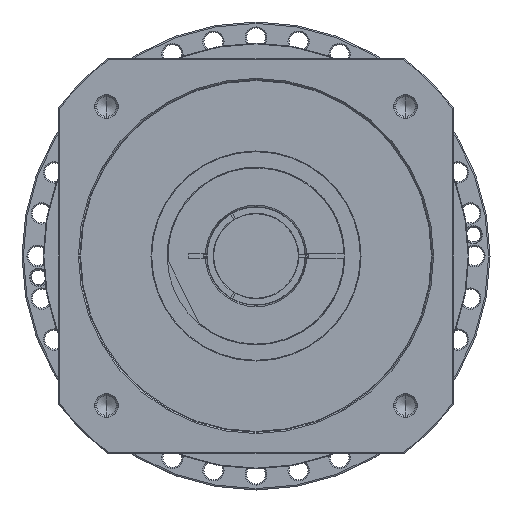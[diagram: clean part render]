
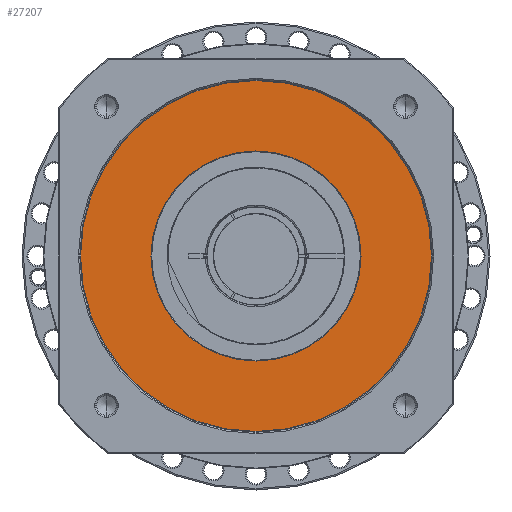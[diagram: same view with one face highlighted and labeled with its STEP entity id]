
A CAD part, left-side view. The second image highlights one B-rep face of the part: STEP entity #27207.
In plain terms, the highlighted planar face has unit normal (-1, 0, 0) as drawn and (0, 0, 1) by its records, which use the part's own axes.
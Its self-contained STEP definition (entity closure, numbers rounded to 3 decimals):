
#25938=CARTESIAN_POINT('',(0.,0.,58.));
#25939=DIRECTION('',(0.,0.,-1.));
#25940=DIRECTION('',(0.,-1.,0.));
#25941=AXIS2_PLACEMENT_3D('',#25938,#25939,#25940);
#25943=CARTESIAN_POINT('',(0.,0.,58.));
#25944=DIRECTION('',(0.,0.,-1.));
#25945=DIRECTION('',(0.,1.,0.));
#25946=AXIS2_PLACEMENT_3D('',#25943,#25944,#25945);
#25948=CARTESIAN_POINT('',(0.,0.,58.));
#25949=DIRECTION('',(0.,0.,-1.));
#25950=DIRECTION('',(1.,0.,0.));
#25951=AXIS2_PLACEMENT_3D('',#25948,#25949,#25950);
#25966=CARTESIAN_POINT('',(0.,0.,58.));
#25967=DIRECTION('',(0.,0.,-1.));
#25968=DIRECTION('',(-1.,0.,0.));
#25969=AXIS2_PLACEMENT_3D('',#25966,#25967,#25968);
#26501=CARTESIAN_POINT('',(0.,-124.5,58.));
#26502=CARTESIAN_POINT('',(0.,124.5,58.));
#26503=VERTEX_POINT('',#26501);
#26504=VERTEX_POINT('',#26502);
#26509=CARTESIAN_POINT('',(-74.5,0.,58.));
#26510=CARTESIAN_POINT('',(74.5,0.,58.));
#26511=VERTEX_POINT('',#26509);
#26512=VERTEX_POINT('',#26510);
#27191=CARTESIAN_POINT('',(0.,0.,58.));
#27192=DIRECTION('',(0.,0.,-1.));
#27193=DIRECTION('',(0.,-1.,0.));
#27194=AXIS2_PLACEMENT_3D('',#27191,#27192,#27193);
#27195=PLANE('',#27194);
#27197=ORIENTED_EDGE('',*,*,#27196,.T.);
#27198=ORIENTED_EDGE('',*,*,#27181,.T.);
#27199=EDGE_LOOP('',(#27197,#27198));
#27200=FACE_OUTER_BOUND('',#27199,.F.);
#27202=ORIENTED_EDGE('',*,*,#27201,.F.);
#27204=ORIENTED_EDGE('',*,*,#27203,.F.);
#27205=EDGE_LOOP('',(#27202,#27204));
#27206=FACE_BOUND('',#27205,.F.);
#27207=ADVANCED_FACE('',(#27200,#27206),#27195,.F.);
#25942=CIRCLE('',#25941,124.5);
#25947=CIRCLE('',#25946,124.5);
#25952=CIRCLE('',#25951,74.5);
#25970=CIRCLE('',#25969,74.5);
#27181=EDGE_CURVE('',#26504,#26503,#25947,.T.);
#27196=EDGE_CURVE('',#26503,#26504,#25942,.T.);
#27201=EDGE_CURVE('',#26512,#26511,#25952,.T.);
#27203=EDGE_CURVE('',#26511,#26512,#25970,.T.);
